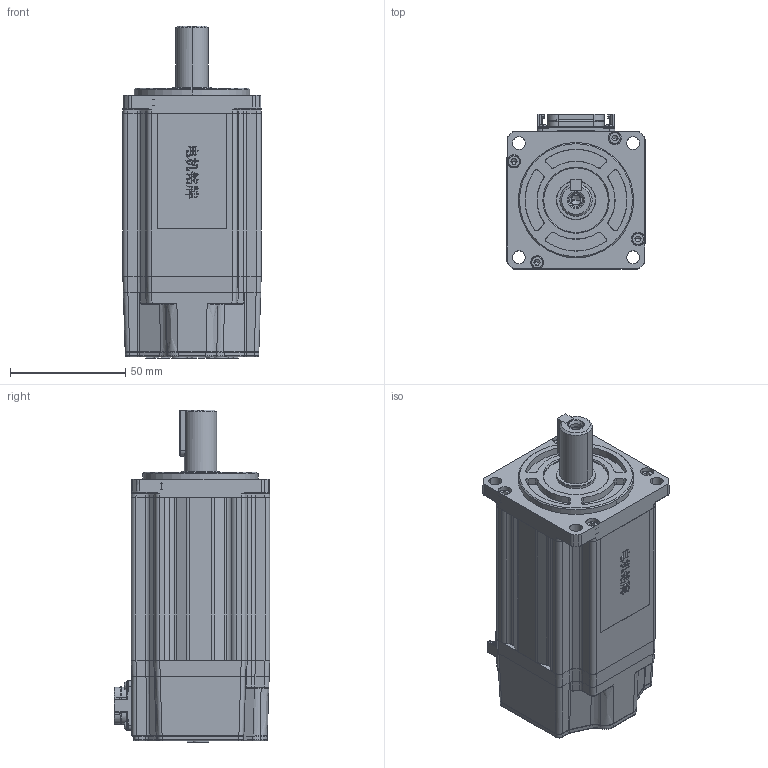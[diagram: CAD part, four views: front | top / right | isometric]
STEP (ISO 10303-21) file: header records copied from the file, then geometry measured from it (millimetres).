
FILE_DESCRIPTION (( 'STEP AP203' ), '1' );
FILE_NAME ('MC20-060-3L30-N201-1¡õCK-NNNN.STEP', '2026-04-19T15:11:16', ( '' ), ( '' ), 'SwSTEP 2.0', 'SolidWorks 2014', '' );
FILE_SCHEMA (( 'CONFIG_CONTROL_DESIGN' ));
Products named in the file (1): MC20-060-3L30-N201-1¡õCK-NNNN
Bounding box: 60 x 67.55 x 144 mm (x, y, z)
Volume: 370705.3 mm3; surface area: 72873 mm2
Topology: 11 solids, 15 shells, 2171 faces, 5773 edges, 3709 vertices
Faces by surface type: plane 980, cylinder 556, bspline 428, cone 171, torus 36
Entity records: 88673 total; most frequent: CARTESIAN_POINT 38573, ORIENTED_EDGE 11420, DIRECTION 8741, EDGE_CURVE 5710, VERTEX_POINT 3709, LINE 3237, VECTOR 3237, AXIS2_PLACEMENT_3D 2752
